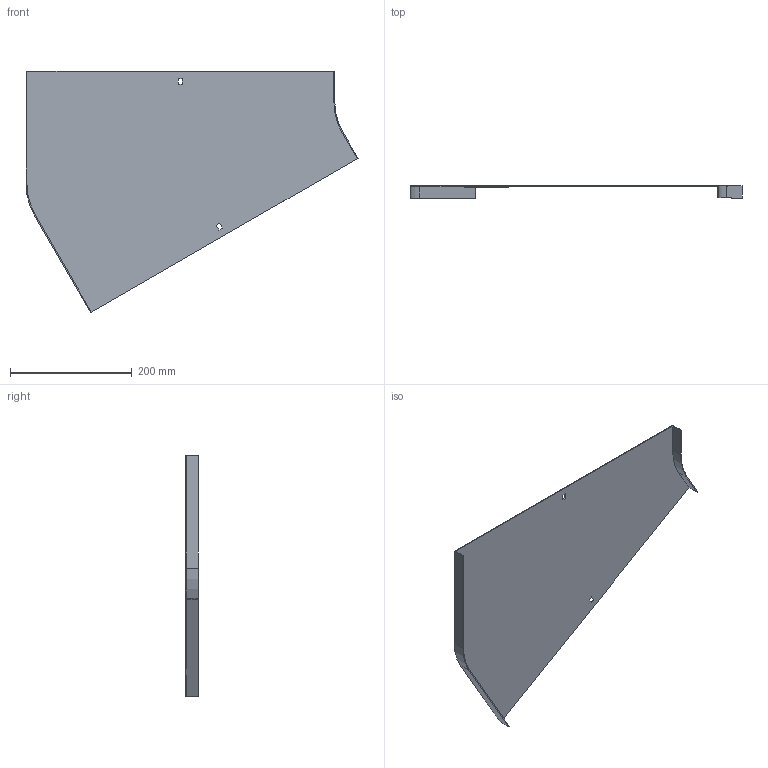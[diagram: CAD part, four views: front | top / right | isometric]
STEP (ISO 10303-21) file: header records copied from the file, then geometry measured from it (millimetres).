
FILE_DESCRIPTION (( 'STEP AP214' ), '1' );
FILE_NAME ('12N1R500.step', '2025-02-21T09:20:29', ( '' ), ( '' ), 'SwSTEP 2.0', 'SolidWorks 2023', '' );
FILE_SCHEMA (( 'AUTOMOTIVE_DESIGN' ));
Length unit declared in the file: millimetre
Products named in the file (1): 12N1R500
Bounding box: 545.2 x 20 x 396.05 mm (x, y, z)
Volume: 235277.9 mm3; surface area: 316291 mm2
Topology: 1 solids, 1 shells, 26 faces, 72 edges, 48 vertices
Faces by surface type: plane 22, cylinder 4
Entity records: 855 total; most frequent: CARTESIAN_POINT 147, ORIENTED_EDGE 144, DIRECTION 134, EDGE_CURVE 72, LINE 64, VECTOR 64, VERTEX_POINT 48, AXIS2_PLACEMENT_3D 35
